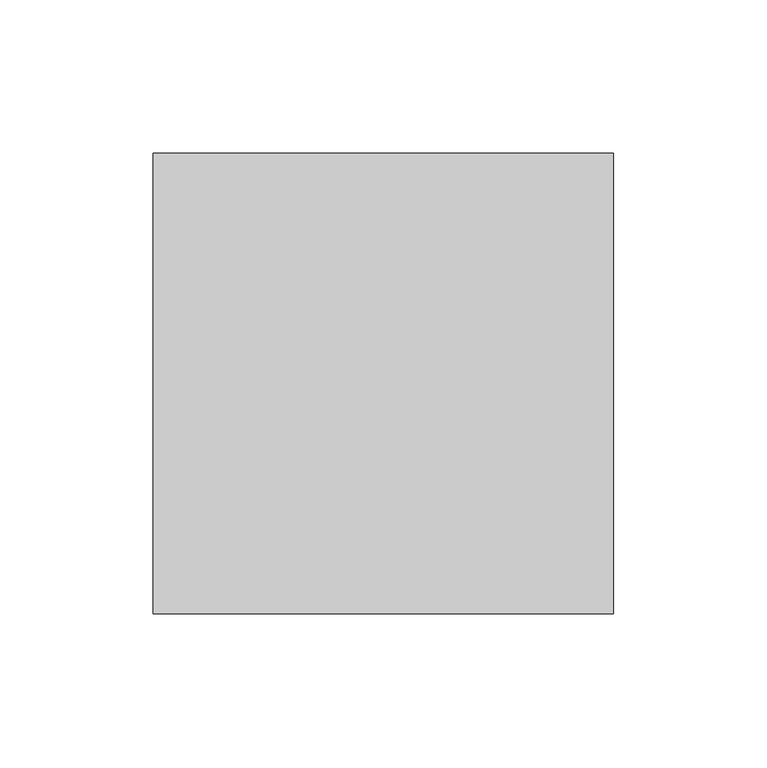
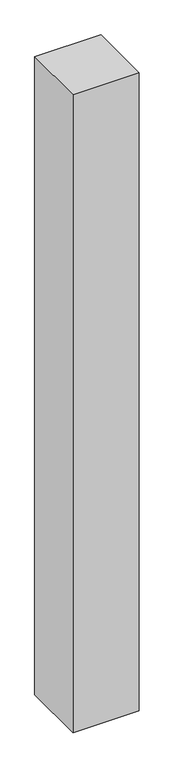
"""IFC4 building model written with IfcOpenShell, lengths in millimetres: proxy geometry, Брус : 150х150."""

from ifc_helpers import new_model, si_unit, origin, origin_with_axes, place, context, project, spatial, polyline, outline, extrude, source, transform, mapped, element, save


def generic_models_34106eca(model_context):
    return source(origin(), model_context, "Body", "SweptSolid", [
        extrude(outline(polyline([(150.0, 0.0), (0.0, 0.0), (0.0, 150.0), (150.0, 150.0), (150.0, 0.0)])), origin_with_axes(), (0.0, 0.0, 1.0), 1530.0),
    ])


if __name__ == "__main__":
    model = new_model("IFC4")
    model_context = context("Model", 3, world=origin())
    ifc_project = project(units=[si_unit("LENGTHUNIT", "METRE", prefix="MILLI")], contexts=[model_context])
    site = spatial("IfcSite", under=ifc_project)
    building = spatial("IfcBuilding", under=site)
    placement = place(None, origin())
    generic_models_shape = generic_models_34106eca(model_context)
    element("IfcBuildingElementProxy", 1, Name="Брус : 150х150", ObjectType="Брус : 150х150", at=placement, inside=building, context=model_context, shape_type="MappedRepresentation", body=[
        mapped(generic_models_shape, transform((0.0, 0.0, 0.0), x_axis=(1.0, 0.0, 0.0), y_axis=(0.0, 1.0, 0.0), z_axis=(0.0, 0.0, 1.0))),
    ])
    save(model, "model.ifc")
